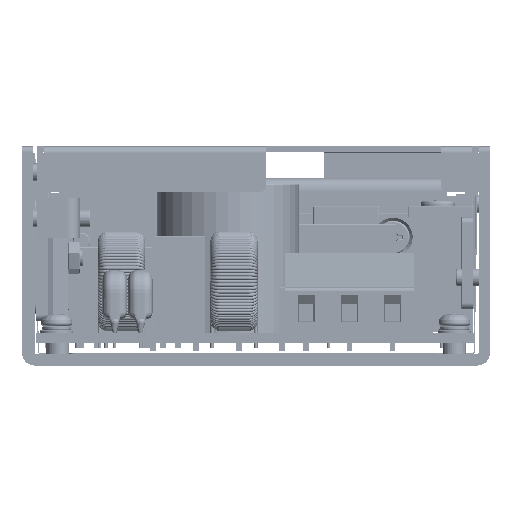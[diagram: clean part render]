
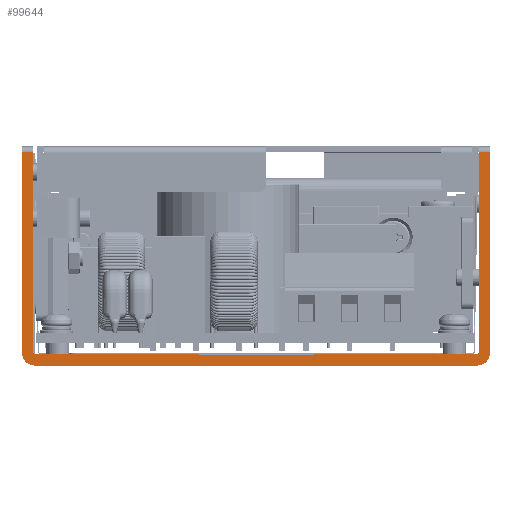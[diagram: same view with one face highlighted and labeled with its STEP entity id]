
A CAD part, left-side view. The second image highlights one B-rep face of the part: STEP entity #99644.
In plain terms, the highlighted planar face has unit normal (-1, 0, 0).
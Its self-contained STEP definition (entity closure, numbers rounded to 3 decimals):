
#8261=PLANE($,#107433);
#9588=FACE_OUTER_BOUND($,#17203,.T.);
#17203=EDGE_LOOP($,(#64577,#64578,#64579,#64580,#64581,#64582,#64583,#64584,
#64585,#64586,#64587,#64588));
#25971=LINE($,#159681,#30205);
#25994=LINE($,#159777,#30228);
#25995=LINE($,#159781,#30229);
#25996=LINE($,#159785,#30230);
#26014=LINE($,#159869,#30248);
#26015=LINE($,#159872,#30249);
#26016=LINE($,#159874,#30250);
#26017=LINE($,#159878,#30251);
#30205=VECTOR($,#123433,34.9);
#30228=VECTOR($,#123512,34.9);
#30229=VECTOR($,#123517,2.);
#30230=VECTOR($,#123522,34.9);
#30248=VECTOR($,#123590,77.);
#30249=VECTOR($,#123593,2.);
#30250=VECTOR($,#123594,34.9);
#30251=VECTOR($,#123597,77.);
#34492=CIRCLE($,#107434,2.2);
#34493=CIRCLE($,#107435,2.2);
#34494=CIRCLE($,#107436,0.2);
#34495=CIRCLE($,#107437,0.2);
#42201=VERTEX_POINT($,#159678);
#42202=VERTEX_POINT($,#159680);
#42246=VERTEX_POINT($,#159774);
#42247=VERTEX_POINT($,#159776);
#42248=VERTEX_POINT($,#159780);
#42249=VERTEX_POINT($,#159784);
#42289=VERTEX_POINT($,#159866);
#42290=VERTEX_POINT($,#159868);
#42291=VERTEX_POINT($,#159871);
#42292=VERTEX_POINT($,#159873);
#42293=VERTEX_POINT($,#159875);
#42294=VERTEX_POINT($,#159877);
#49818=EDGE_CURVE($,#42202,#42201,#25971,.T.);
#49866=EDGE_CURVE($,#42247,#42246,#25994,.T.);
#49868=EDGE_CURVE($,#42247,#42248,#25995,.T.);
#49870=EDGE_CURVE($,#42249,#42248,#25996,.T.);
#49911=EDGE_CURVE($,#42246,#42289,#34492,.T.);
#49912=EDGE_CURVE($,#42289,#42290,#26014,.T.);
#49913=EDGE_CURVE($,#42290,#42202,#34493,.T.);
#49914=EDGE_CURVE($,#42291,#42201,#26015,.T.);
#49915=EDGE_CURVE($,#42291,#42292,#26016,.T.);
#49916=EDGE_CURVE($,#42292,#42293,#34494,.T.);
#49917=EDGE_CURVE($,#42293,#42294,#26017,.T.);
#49918=EDGE_CURVE($,#42294,#42249,#34495,.T.);
#64577=ORIENTED_EDGE($,*,*,#49868,.F.);
#64578=ORIENTED_EDGE($,*,*,#49866,.T.);
#64579=ORIENTED_EDGE($,*,*,#49911,.T.);
#64580=ORIENTED_EDGE($,*,*,#49912,.T.);
#64581=ORIENTED_EDGE($,*,*,#49913,.T.);
#64582=ORIENTED_EDGE($,*,*,#49818,.T.);
#64583=ORIENTED_EDGE($,*,*,#49914,.F.);
#64584=ORIENTED_EDGE($,*,*,#49915,.T.);
#64585=ORIENTED_EDGE($,*,*,#49916,.T.);
#64586=ORIENTED_EDGE($,*,*,#49917,.T.);
#64587=ORIENTED_EDGE($,*,*,#49918,.T.);
#64588=ORIENTED_EDGE($,*,*,#49870,.T.);
#99644=ADVANCED_FACE($,(#9588),#8261,.T.);
#107433=AXIS2_PLACEMENT_3D($,#159865,#123586,#123587);
#107434=AXIS2_PLACEMENT_3D($,#159867,#123588,#123589);
#107435=AXIS2_PLACEMENT_3D($,#159870,#123591,#123592);
#107436=AXIS2_PLACEMENT_3D($,#159876,#123595,#123596);
#107437=AXIS2_PLACEMENT_3D($,#159879,#123598,#123599);
#123433=DIRECTION($,(0.,0.,1.));
#123512=DIRECTION($,(0.,0.,-1.));
#123517=DIRECTION($,(0.,-1.,0.));
#123522=DIRECTION($,(0.,0.,1.));
#123586=DIRECTION('center_axis',(-1.,0.,0.));
#123587=DIRECTION('ref_axis',(0.,0.,1.));
#123588=DIRECTION('center_axis',(-1.,0.,0.));
#123589=DIRECTION('ref_axis',(0.,1.,0.));
#123590=DIRECTION($,(0.,-1.,0.));
#123591=DIRECTION('center_axis',(-1.,0.,0.));
#123592=DIRECTION('ref_axis',(0.,0.,-1.));
#123593=DIRECTION($,(0.,-1.,0.));
#123594=DIRECTION($,(0.,0.,-1.));
#123595=DIRECTION('center_axis',(1.,0.,0.));
#123596=DIRECTION('ref_axis',(0.,-1.,0.));
#123597=DIRECTION($,(0.,1.,0.));
#123598=DIRECTION('center_axis',(1.,0.,0.));
#123599=DIRECTION('ref_axis',(0.,0.,-1.));
#159678=CARTESIAN_POINT('',(0.,0.,
37.1));
#159680=CARTESIAN_POINT('',(0.,0.,
2.2));
#159681=CARTESIAN_POINT($,(0.,0.,
2.2));
#159774=CARTESIAN_POINT('',(0.,81.4,2.2));
#159776=CARTESIAN_POINT('',(0.,81.4,37.1));
#159777=CARTESIAN_POINT($,(0.,81.4,-1.193));
#159780=CARTESIAN_POINT('',(0.,79.4,37.1));
#159781=CARTESIAN_POINT($,(0.,39.7,37.1));
#159784=CARTESIAN_POINT('',(0.,79.4,2.2));
#159785=CARTESIAN_POINT($,(0.,79.4,-1.193));
#159865=CARTESIAN_POINT('Origin',(0.,0.,0.));
#159866=CARTESIAN_POINT('',(0.,79.2,0.));
#159867=CARTESIAN_POINT('Origin',(0.,79.2,2.2));
#159868=CARTESIAN_POINT('',(0.,2.2,0.));
#159869=CARTESIAN_POINT($,(0.,81.4,0.));
#159870=CARTESIAN_POINT('Origin',(0.,2.2,2.2));
#159871=CARTESIAN_POINT('',(0.,2.,37.1));
#159872=CARTESIAN_POINT($,(0.,1.,37.1));
#159873=CARTESIAN_POINT('',(0.,2.,2.2));
#159874=CARTESIAN_POINT($,(0.,2.,-1.193));
#159875=CARTESIAN_POINT('',(0.,2.2,2.));
#159876=CARTESIAN_POINT('Origin',(0.,2.2,2.2));
#159877=CARTESIAN_POINT('',(0.,79.2,2.));
#159878=CARTESIAN_POINT($,(0.,81.4,2.));
#159879=CARTESIAN_POINT('Origin',(0.,79.2,2.2));
